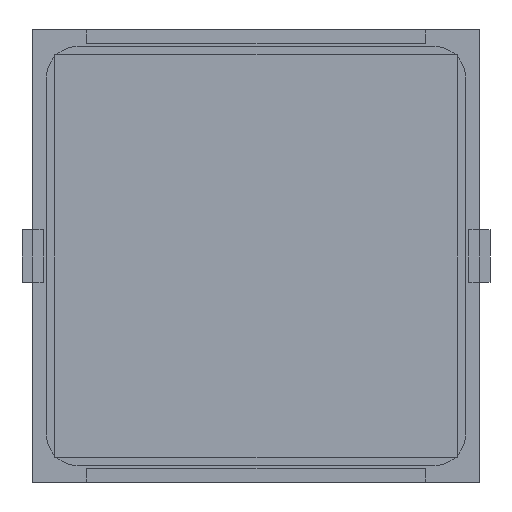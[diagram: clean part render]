
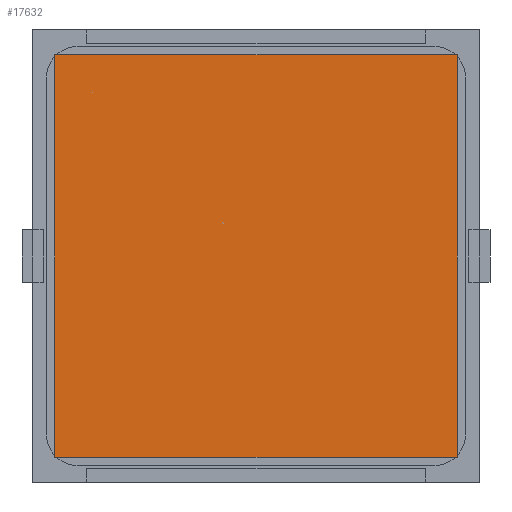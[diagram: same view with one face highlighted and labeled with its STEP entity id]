
A CAD part, front view. The second image highlights one B-rep face of the part: STEP entity #17632.
In plain terms, the highlighted planar face has unit normal (0, -1, 0).
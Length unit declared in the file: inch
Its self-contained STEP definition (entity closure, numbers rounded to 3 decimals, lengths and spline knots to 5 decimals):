
#253 = AXIS2_PLACEMENT_3D ( 'NONE', #17294, #5445, #1261 ) ;
#926 = VECTOR ( 'NONE', #6171, 39.37008 ) ;
#1261 = DIRECTION ( 'NONE',  ( 0., 0., 1. ) ) ;
#1267 = DIRECTION ( 'NONE',  ( 0., 0., -1. ) ) ;
#2247 = EDGE_CURVE ( 'NONE', #10153, #5859, #14633, .T. ) ;
#2436 = CARTESIAN_POINT ( 'NONE',  ( -0.74803, -0.005, -0.74803 ) ) ;
#3012 = LINE ( 'NONE', #8850, #9363 ) ;
#3051 = ORIENTED_EDGE ( 'NONE', *, *, #2247, .T. ) ;
#3230 = DIRECTION ( 'NONE',  ( -1., 0., 0. ) ) ;
#4628 = ORIENTED_EDGE ( 'NONE', *, *, #15958, .T. ) ;
#4775 = CARTESIAN_POINT ( 'NONE',  ( 0.74803, -0.005, 0.74803 ) ) ;
#5445 = DIRECTION ( 'NONE',  ( 0., -1., 0. ) ) ;
#5859 = VERTEX_POINT ( 'NONE', #10431 ) ;
#6171 = DIRECTION ( 'NONE',  ( 1., 0., 0. ) ) ;
#6800 = PLANE ( 'NONE',  #253 ) ;
#7510 = CARTESIAN_POINT ( 'NONE',  ( 0.74803, -0.005, -0.74803 ) ) ;
#7668 = LINE ( 'NONE', #8918, #926 ) ;
#8427 = VECTOR ( 'NONE', #11360, 39.37008 ) ;
#8850 = CARTESIAN_POINT ( 'NONE',  ( -0.74803, -0.005, -0.74803 ) ) ;
#8918 = CARTESIAN_POINT ( 'NONE',  ( 0.74803, -0.005, -0.74803 ) ) ;
#9363 = VECTOR ( 'NONE', #1267, 39.37008 ) ;
#10068 = VERTEX_POINT ( 'NONE', #2436 ) ;
#10153 = VERTEX_POINT ( 'NONE', #7510 ) ;
#10431 = CARTESIAN_POINT ( 'NONE',  ( 0.74803, -0.005, 0.74803 ) ) ;
#11360 = DIRECTION ( 'NONE',  ( 0., 0., 1. ) ) ;
#11391 = CARTESIAN_POINT ( 'NONE',  ( -0.74803, -0.005, 0.74803 ) ) ;
#14633 = LINE ( 'NONE', #18928, #8427 ) ;
#15151 = LINE ( 'NONE', #4775, #16742 ) ;
#15648 = FACE_OUTER_BOUND ( 'NONE', #16633, .T. ) ;
#15958 = EDGE_CURVE ( 'NONE', #18361, #10068, #3012, .T. ) ;
#16526 = ORIENTED_EDGE ( 'NONE', *, *, #18470, .T. ) ;
#16633 = EDGE_LOOP ( 'NONE', ( #3051, #16526, #4628, #17468 ) ) ;
#16742 = VECTOR ( 'NONE', #3230, 39.37008 ) ;
#17294 = CARTESIAN_POINT ( 'NONE',  ( 0.74803, -0.005, 0.74803 ) ) ;
#17468 = ORIENTED_EDGE ( 'NONE', *, *, #18718, .T. ) ;
#17632 = ADVANCED_FACE ( 'NONE', ( #15648 ), #6800, .T. ) ;
#18361 = VERTEX_POINT ( 'NONE', #11391 ) ;
#18470 = EDGE_CURVE ( 'NONE', #5859, #18361, #15151, .T. ) ;
#18718 = EDGE_CURVE ( 'NONE', #10068, #10153, #7668, .T. ) ;
#18928 = CARTESIAN_POINT ( 'NONE',  ( 0.74803, -0.005, -0.74803 ) ) ;
